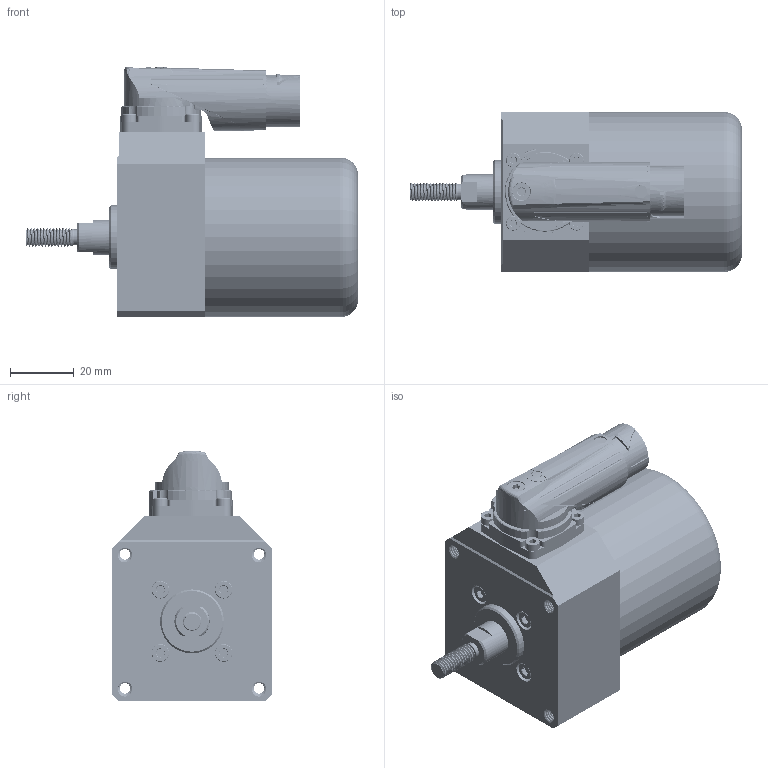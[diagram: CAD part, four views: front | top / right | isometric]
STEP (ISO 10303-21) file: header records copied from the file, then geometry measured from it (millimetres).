
FILE_DESCRIPTION(/* description */ (''),/* implementation_level */ '2;1');
FILE_NAME(/* name */ 'LE-BASE-50.XXX.045.XX.step',/* time_stamp */ '2024-05-15T18:18:15+02:00',/* author */ (''),/* organization */ (''),/* preprocessor_version */ 'ST-DEVELOPER v20',/* originating_system */ 'Autodesk Translation Framework v12.20.1.177',/* authorisation */ '');
FILE_SCHEMA (('AUTOMOTIVE_DESIGN { 1 0 10303 214 3 1 1 }'));
Length unit declared in the file: millimetre
Products named in the file (6): LE-BASE-50.XXX.045.XX; M15_Intercontec_EED_0600_12+3-polig, Stift; 131020; 118405-T-Flansch25x25; 91290A103_Black-Oxide Alloy Steel Socket Head Screw; 91290A123_Alloy Steel Socket Head Screw
Assembly tree (11 placements, depth 3):
  LE-BASE-50.XXX.045.XX
    M15_Intercontec_EED_0600_12+3-polig, Stift
      131020
      118405-T-Flansch25x25
    91290A103_Black-Oxide Alloy Steel Socket Head Screw  x4
    91290A123_Alloy Steel Socket Head Screw  x4
Bounding box: 104 x 50 x 78.42 mm (x, y, z)
Volume: 185551.2 mm3; surface area: 32364.6 mm2
Topology: 11 solids, 11 shells, 2985 faces, 7393 edges, 4876 vertices
Faces by surface type: plane 1783, cylinder 952, cone 132, bspline 80, torus 30, sphere 8
Full cylindrical faces by diameter (mm): 1 x15, 1.2 x3, 1.915 x80, 2.35 x152, 2.5 x80, 2.529 x4, 2.7 x4, 3 x152, 3.06 x1, 3.332 x32, 3.4 x4, 4 x1, 4.109 x10, 4.11 x10, 4.234 x24, 4.5 x4, 4.744 x6, 5 x1, 5.12 x20, 5.5 x5, 5.8 x1, 5.884 x10, 6.5 x4, 11 x1, 11.75 x1, 16.2 x1, 17.025 x1, 18.8 x1, 19.8 x1, 20 x1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
Entity records: 70661 total; most frequent: CARTESIAN_POINT 40087, ORIENTED_EDGE 6780, DIRECTION 5488, EDGE_CURVE 3390, VERTEX_POINT 2239, AXIS2_PLACEMENT_3D 1974, LINE 1540, VECTOR 1540
